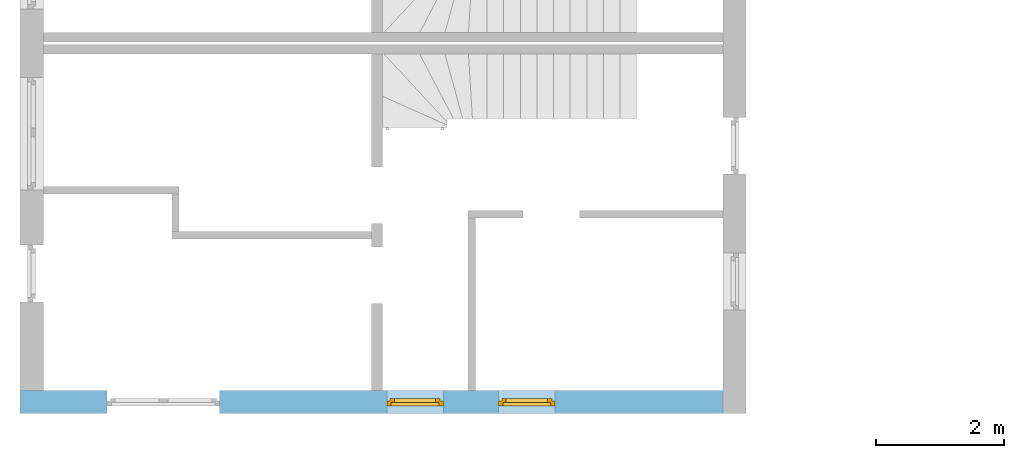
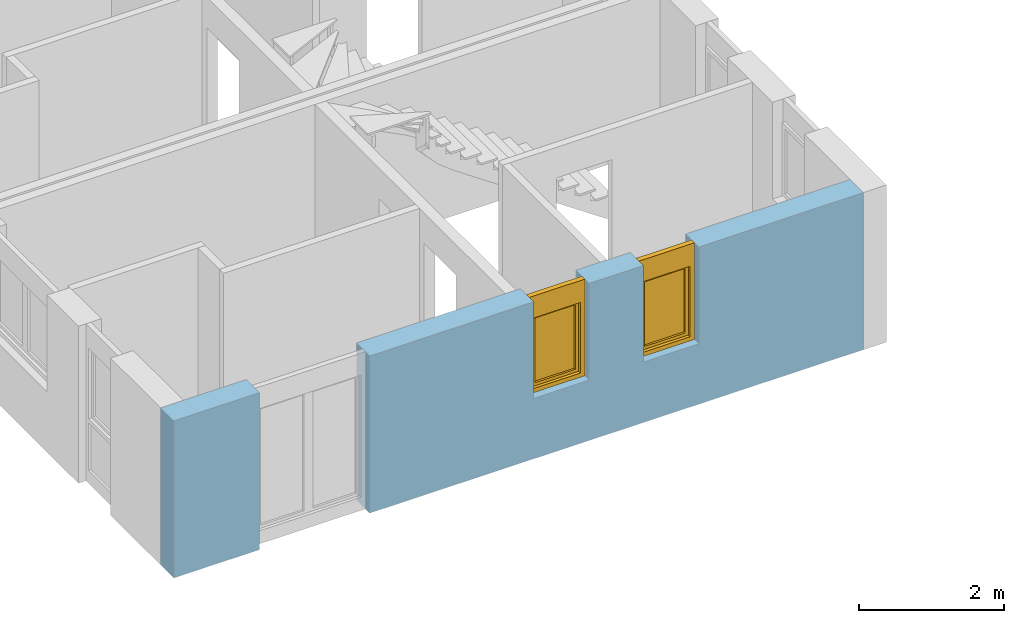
# One storey, part 5 of 42: 2 windows, 3 openings, plus 1 element that does not belong to this part.
"""IFC2X3 building model written with IfcOpenShell, lengths in millimetres."""

from ifc_helpers import new_model, entity, si_unit, converted_unit, frame, frame_2d, origin, origin_with_axes, place, context, subcontext, project, spatial, rectangle, extrude, faceted_brep, material, layer, layer_set, layer_usage, type_object, element, fill, save


model = new_model("IFC2X3")

# Units and contexts
model_context = context("Model", 3, precision=1e-05, world=origin())
body_context = subcontext(model_context, "Body", "Model", "MODEL_VIEW")
ifc_project = project(units=[si_unit("LENGTHUNIT", "METRE", prefix="MILLI"), converted_unit("PLANEANGLEUNIT", "DEGREE", entity("IfcPlaneAngleMeasure", 0.0174532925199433), si_unit("PLANEANGLEUNIT", "RADIAN"), dimensions=[0, 0, 0, 0, 0, 0, 0]), si_unit("AREAUNIT", "SQUARE_METRE"), si_unit("VOLUMEUNIT", "CUBIC_METRE")], contexts=[model_context])

# Building, storey
building_placement = place(None, origin())
building = spatial("IfcBuilding", under=ifc_project, at=building_placement, Name="Gebäude", CompositionType="ELEMENT")
storey_placement = place(building_placement, frame((0.0, 0.0, 2730.0), z_axis=(0.0, 0.0, 1.0), x_axis=(1.0, 0.0, 0.0)))
storey = spatial("IfcBuildingStorey", under=building, at=storey_placement, Name="OG.- Grundriss", CompositionType="ELEMENT", Elevation=2730.0)

# Wall, openings, windows
ifc_material_1 = material(Name="Poroton")
ifc_layer = layer(ifc_material_1, 365.0000000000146)
ifc_layer_set = layer_set([ifc_layer])
ifc_layer_usage = layer_usage(ifc_layer_set, "AXIS2", "POSITIVE", 0.0)
wall_placement = place(storey_placement, frame((130992.7928067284, 125274.8877324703, 0.0), z_axis=(0.0, 0.0, 1.0), x_axis=(1.0, -2.749253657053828e-11, 0.0)))
wall = element("IfcWallStandardCase", 1, at=wall_placement, inside=storey, material=ifc_layer_usage, Name="<Unnamed Element>", context=body_context, shape_type="SweptSolid", body=[
    extrude(rectangle(XDim=10999.99999999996, YDim=365.0000000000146, at=frame_2d((5499.999999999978, 182.5000000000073), x_axis=(1.0, 0.0))), origin_with_axes(), (0.0, 0.0, 1.0), 2650.0),
])
opening_1_placement = place(wall_placement, frame((1364.999999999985, -7.494236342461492e-12, 0.0), z_axis=(0.0, 1.0, 0.0), x_axis=(0.0, 0.0, 1.0)))
element("IfcOpeningElement", 2, at=opening_1_placement, cuts=wall, Name="Fensteröffnung", ObjectType="Opening", context=body_context, shape_type="SweptSolid", body=[
    extrude(rectangle(XDim=2650.0, YDim=1760.0, at=frame_2d((1325.0, 880.0), x_axis=(1.0, 0.0))), origin_with_axes(), (0.0, 0.0, 1.0), 365.0000000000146),
])
opening_2_placement = place(wall_placement, frame((7489.999999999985, -3.477907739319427e-11, 1020.0), z_axis=(0.0, 1.0, 0.0), x_axis=(0.0, 0.0, 1.0)))
opening_2 = element("IfcOpeningElement", 3, at=opening_2_placement, cuts=wall, Name="Fensteröffnung", ObjectType="Opening", context=body_context, shape_type="SweptSolid", body=[
    extrude(rectangle(XDim=1630.0, YDim=885.0, at=frame_2d((815.0, 442.5), x_axis=(1.0, 0.0))), origin_with_axes(), (0.0, 0.0, 1.0), 365.0000000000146),
])
opening_3_placement = place(wall_placement, frame((5739.999999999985, -1.658918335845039e-11, 1020.0), z_axis=(0.0, 1.0, 0.0), x_axis=(0.0, 0.0, 1.0)))
opening_3 = element("IfcOpeningElement", 4, at=opening_3_placement, cuts=wall, Name="Fensteröffnung", ObjectType="Opening", context=body_context, shape_type="SweptSolid", body=[
    extrude(rectangle(XDim=1630.0, YDim=885.0, at=frame_2d((815.0, 442.5), x_axis=(1.0, 0.0))), origin_with_axes(), (0.0, 0.0, 1.0), 365.0000000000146),
])
ifc_material_2 = material()
window_style_1 = type_object("IfcWindowStyle", Name="Fenster", ConstructionType="NOTDEFINED", OperationType="USERDEFINED", ParameterTakesPrecedence=False, Sizeable=False)
window_1_placement = place(opening_2_placement, frame((0.0, 0.0, 0.0), z_axis=(1.0, 0.0, 0.0), x_axis=(0.0, 1.0, 0.0)))
window_1 = element("IfcWindow", 5, at=window_1_placement, inside=storey, type_object=window_style_1, material=ifc_material_2, Name="Fenster", OverallHeight=1630.0, OverallWidth=885.0, context=body_context, shape_type="Brep", body=[
    faceted_brep([(-1.224022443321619e-08, 200.0000000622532, 1630.0), (-1.224022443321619e-08, 200.0000000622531, -2.449293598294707e-15), (69.99999998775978, 200.0000000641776, -2.449293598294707e-15), (69.99999998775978, 200.0000000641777, 1630.0), (-1.004082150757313e-08, 120.0000000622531, 2.449293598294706e-15), (-1.004082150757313e-08, 120.0000000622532, 1630.0), (69.99999998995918, 120.0000000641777, 1630.0), (69.99999998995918, 120.0000000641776, 2.449293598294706e-15), (-1.224022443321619e-08, 200.0000000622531, -2.449293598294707e-15), (-1.224022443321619e-08, 200.0000000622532, 1630.0), (-1.004082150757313e-08, 120.0000000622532, 1630.0), (-1.004082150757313e-08, 120.0000000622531, 2.449293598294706e-15), (69.99999998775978, 200.0000000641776, -2.449293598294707e-15), (-1.224022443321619e-08, 200.0000000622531, -2.449293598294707e-15), (-1.004082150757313e-08, 120.0000000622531, 2.449293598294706e-15), (69.99999998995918, 120.0000000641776, 2.449293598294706e-15), (69.99999998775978, 200.0000000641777, 1630.0), (69.99999998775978, 200.0000000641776, -2.449293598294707e-15), (69.99999998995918, 120.0000000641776, 2.449293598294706e-15), (69.99999998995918, 120.0000000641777, 1630.0), (-1.224022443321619e-08, 200.0000000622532, 1630.0), (69.99999998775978, 200.0000000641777, 1630.0), (69.99999998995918, 120.0000000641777, 1630.0), (-1.004082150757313e-08, 120.0000000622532, 1630.0)], [[[0, 1, 2, 3]], [[4, 5, 6, 7]], [[8, 9, 10, 11]], [[12, 13, 14, 15]], [[16, 17, 18, 19]], [[20, 21, 22, 23]]], orient=[[False], [False], [False], [False], [False], [False]]),
    faceted_brep([(814.9999999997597, 200.0000000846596, 1630.0), (814.9999999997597, 200.0000000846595, -2.449293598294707e-15), (884.9999999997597, 200.000000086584, -2.449293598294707e-15), (884.9999999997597, 200.0000000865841, 1630.0), (815.000000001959, 120.0000000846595, 2.449293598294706e-15), (815.000000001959, 120.0000000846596, 1630.0), (885.000000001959, 120.0000000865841, 1630.0), (885.000000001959, 120.000000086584, 2.449293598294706e-15), (814.9999999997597, 200.0000000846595, -2.449293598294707e-15), (814.9999999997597, 200.0000000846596, 1630.0), (815.000000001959, 120.0000000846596, 1630.0), (815.000000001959, 120.0000000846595, 2.449293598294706e-15), (884.9999999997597, 200.000000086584, -2.449293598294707e-15), (814.9999999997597, 200.0000000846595, -2.449293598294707e-15), (815.000000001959, 120.0000000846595, 2.449293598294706e-15), (885.000000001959, 120.000000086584, 2.449293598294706e-15), (884.9999999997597, 200.0000000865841, 1630.0), (884.9999999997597, 200.000000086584, -2.449293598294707e-15), (885.000000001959, 120.000000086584, 2.449293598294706e-15), (885.000000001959, 120.0000000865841, 1630.0), (814.9999999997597, 200.0000000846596, 1630.0), (884.9999999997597, 200.0000000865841, 1630.0), (885.000000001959, 120.0000000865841, 1630.0), (815.000000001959, 120.0000000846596, 1630.0)], [[[0, 1, 2, 3]], [[4, 5, 6, 7]], [[8, 9, 10, 11]], [[12, 13, 14, 15]], [[16, 17, 18, 19]], [[20, 21, 22, 23]]], orient=[[False], [False], [False], [False], [False], [False]]),
    faceted_brep([(69.99999998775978, 200.0000000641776, 69.99999999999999), (69.99999998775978, 200.0000000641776, -2.449293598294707e-15), (814.9999999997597, 200.0000000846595, -2.449293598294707e-15), (814.9999999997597, 200.0000000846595, 69.99999999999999), (69.99999998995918, 120.0000000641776, 2.449293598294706e-15), (69.99999998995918, 120.0000000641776, 69.99999999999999), (815.000000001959, 120.0000000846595, 69.99999999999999), (815.000000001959, 120.0000000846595, 2.449293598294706e-15), (69.99999998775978, 200.0000000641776, -2.449293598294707e-15), (69.99999998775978, 200.0000000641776, 69.99999999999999), (69.99999998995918, 120.0000000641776, 69.99999999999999), (69.99999998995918, 120.0000000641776, 2.449293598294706e-15), (814.9999999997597, 200.0000000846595, -2.449293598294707e-15), (69.99999998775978, 200.0000000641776, -2.449293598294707e-15), (69.99999998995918, 120.0000000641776, 2.449293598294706e-15), (815.000000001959, 120.0000000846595, 2.449293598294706e-15), (814.9999999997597, 200.0000000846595, 69.99999999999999), (814.9999999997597, 200.0000000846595, -2.449293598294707e-15), (815.000000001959, 120.0000000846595, 2.449293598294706e-15), (815.000000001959, 120.0000000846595, 69.99999999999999), (69.99999998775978, 200.0000000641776, 69.99999999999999), (814.9999999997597, 200.0000000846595, 69.99999999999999), (815.000000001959, 120.0000000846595, 69.99999999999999), (69.99999998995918, 120.0000000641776, 69.99999999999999)], [[[0, 1, 2, 3]], [[4, 5, 6, 7]], [[8, 9, 10, 11]], [[12, 13, 14, 15]], [[16, 17, 18, 19]], [[20, 21, 22, 23]]], orient=[[False], [False], [False], [False], [False], [False]]),
    faceted_brep([(69.99999998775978, 200.0000000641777, 1630.0), (69.99999998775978, 200.0000000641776, 1260.0), (814.9999999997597, 200.0000000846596, 1260.0), (814.9999999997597, 200.0000000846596, 1630.0), (69.99999998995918, 120.0000000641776, 1260.0), (69.99999998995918, 120.0000000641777, 1630.0), (815.000000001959, 120.0000000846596, 1630.0), (815.000000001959, 120.0000000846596, 1260.0), (69.99999998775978, 200.0000000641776, 1260.0), (69.99999998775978, 200.0000000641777, 1630.0), (69.99999998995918, 120.0000000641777, 1630.0), (69.99999998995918, 120.0000000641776, 1260.0), (814.9999999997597, 200.0000000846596, 1260.0), (69.99999998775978, 200.0000000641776, 1260.0), (69.99999998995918, 120.0000000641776, 1260.0), (815.000000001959, 120.0000000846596, 1260.0), (814.9999999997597, 200.0000000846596, 1630.0), (814.9999999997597, 200.0000000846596, 1260.0), (815.000000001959, 120.0000000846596, 1260.0), (815.000000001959, 120.0000000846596, 1630.0), (69.99999998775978, 200.0000000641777, 1630.0), (814.9999999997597, 200.0000000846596, 1630.0), (815.000000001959, 120.0000000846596, 1630.0), (69.99999998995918, 120.0000000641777, 1630.0)], [[[0, 1, 2, 3]], [[4, 5, 6, 7]], [[8, 9, 10, 11]], [[12, 13, 14, 15]], [[16, 17, 18, 19]], [[20, 21, 22, 23]]], orient=[[False], [False], [False], [False], [False], [False]]),
    faceted_brep([(49.99999998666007, 240.0000000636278, 1280.0), (49.99999998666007, 240.0000000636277, 49.99999999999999), (119.9999999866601, 240.0000000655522, 49.99999999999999), (119.9999999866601, 240.0000000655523, 1280.0), (49.99999998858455, 170.0000000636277, 50.0), (49.99999998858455, 170.0000000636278, 1280.0), (119.9999999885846, 170.0000000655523, 1280.0), (119.9999999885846, 170.0000000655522, 50.0), (49.99999998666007, 240.0000000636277, 49.99999999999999), (49.99999998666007, 240.0000000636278, 1280.0), (49.99999998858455, 170.0000000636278, 1280.0), (49.99999998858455, 170.0000000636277, 50.0), (119.9999999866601, 240.0000000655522, 49.99999999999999), (49.99999998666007, 240.0000000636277, 49.99999999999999), (49.99999998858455, 170.0000000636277, 50.0), (119.9999999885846, 170.0000000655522, 50.0), (119.9999999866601, 240.0000000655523, 1280.0), (119.9999999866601, 240.0000000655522, 49.99999999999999), (119.9999999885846, 170.0000000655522, 50.0), (119.9999999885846, 170.0000000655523, 1280.0), (49.99999998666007, 240.0000000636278, 1280.0), (119.9999999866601, 240.0000000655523, 1280.0), (119.9999999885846, 170.0000000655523, 1280.0), (49.99999998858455, 170.0000000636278, 1280.0)], [[[0, 1, 2, 3]], [[4, 5, 6, 7]], [[8, 9, 10, 11]], [[12, 13, 14, 15]], [[16, 17, 18, 19]], [[20, 21, 22, 23]]], orient=[[False], [False], [False], [False], [False], [False]]),
    faceted_brep([(764.9999999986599, 240.000000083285, 1280.0), (764.9999999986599, 240.0000000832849, 49.99999999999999), (834.9999999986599, 240.0000000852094, 49.99999999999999), (834.9999999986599, 240.0000000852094, 1280.0), (765.0000000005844, 170.0000000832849, 50.0), (765.0000000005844, 170.000000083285, 1280.0), (835.0000000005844, 170.0000000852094, 1280.0), (835.0000000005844, 170.0000000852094, 50.0), (764.9999999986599, 240.0000000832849, 49.99999999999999), (764.9999999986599, 240.000000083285, 1280.0), (765.0000000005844, 170.000000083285, 1280.0), (765.0000000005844, 170.0000000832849, 50.0), (834.9999999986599, 240.0000000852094, 49.99999999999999), (764.9999999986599, 240.0000000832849, 49.99999999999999), (765.0000000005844, 170.0000000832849, 50.0), (835.0000000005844, 170.0000000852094, 50.0), (834.9999999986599, 240.0000000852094, 1280.0), (834.9999999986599, 240.0000000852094, 49.99999999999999), (835.0000000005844, 170.0000000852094, 50.0), (835.0000000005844, 170.0000000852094, 1280.0), (764.9999999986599, 240.000000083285, 1280.0), (834.9999999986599, 240.0000000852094, 1280.0), (835.0000000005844, 170.0000000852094, 1280.0), (765.0000000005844, 170.000000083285, 1280.0)], [[[0, 1, 2, 3]], [[4, 5, 6, 7]], [[8, 9, 10, 11]], [[12, 13, 14, 15]], [[16, 17, 18, 19]], [[20, 21, 22, 23]]], orient=[[False], [False], [False], [False], [False], [False]]),
    faceted_brep([(119.9999999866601, 240.0000000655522, 120.0), (119.9999999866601, 240.0000000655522, 49.99999999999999), (764.9999999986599, 240.0000000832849, 49.99999999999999), (764.9999999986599, 240.0000000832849, 120.0), (119.9999999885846, 170.0000000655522, 50.0), (119.9999999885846, 170.0000000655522, 120.0), (765.0000000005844, 170.0000000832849, 120.0), (765.0000000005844, 170.0000000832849, 50.0), (119.9999999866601, 240.0000000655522, 49.99999999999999), (119.9999999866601, 240.0000000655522, 120.0), (119.9999999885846, 170.0000000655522, 120.0), (119.9999999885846, 170.0000000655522, 50.0), (764.9999999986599, 240.0000000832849, 49.99999999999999), (119.9999999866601, 240.0000000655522, 49.99999999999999), (119.9999999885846, 170.0000000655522, 50.0), (765.0000000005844, 170.0000000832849, 50.0), (764.9999999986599, 240.0000000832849, 120.0), (764.9999999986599, 240.0000000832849, 49.99999999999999), (765.0000000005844, 170.0000000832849, 50.0), (765.0000000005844, 170.0000000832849, 120.0), (119.9999999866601, 240.0000000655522, 120.0), (764.9999999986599, 240.0000000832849, 120.0), (765.0000000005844, 170.0000000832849, 120.0), (119.9999999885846, 170.0000000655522, 120.0)], [[[0, 1, 2, 3]], [[4, 5, 6, 7]], [[8, 9, 10, 11]], [[12, 13, 14, 15]], [[16, 17, 18, 19]], [[20, 21, 22, 23]]], orient=[[False], [False], [False], [False], [False], [False]]),
    faceted_brep([(119.9999999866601, 240.0000000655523, 1280.0), (119.9999999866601, 240.0000000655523, 1210.0), (764.9999999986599, 240.000000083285, 1210.0), (764.9999999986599, 240.000000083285, 1280.0), (119.9999999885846, 170.0000000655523, 1210.0), (119.9999999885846, 170.0000000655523, 1280.0), (765.0000000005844, 170.000000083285, 1280.0), (765.0000000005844, 170.000000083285, 1210.0), (119.9999999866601, 240.0000000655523, 1210.0), (119.9999999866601, 240.0000000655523, 1280.0), (119.9999999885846, 170.0000000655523, 1280.0), (119.9999999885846, 170.0000000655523, 1210.0), (764.9999999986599, 240.000000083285, 1210.0), (119.9999999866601, 240.0000000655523, 1210.0), (119.9999999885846, 170.0000000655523, 1210.0), (765.0000000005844, 170.000000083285, 1210.0), (764.9999999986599, 240.000000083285, 1280.0), (764.9999999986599, 240.000000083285, 1210.0), (765.0000000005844, 170.000000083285, 1210.0), (765.0000000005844, 170.000000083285, 1280.0), (119.9999999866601, 240.0000000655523, 1280.0), (764.9999999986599, 240.000000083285, 1280.0), (765.0000000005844, 170.000000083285, 1280.0), (119.9999999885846, 170.0000000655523, 1280.0)], [[[0, 1, 2, 3]], [[4, 5, 6, 7]], [[8, 9, 10, 11]], [[12, 13, 14, 15]], [[16, 17, 18, 19]], [[20, 21, 22, 23]]], orient=[[False], [False], [False], [False], [False], [False]]),
    faceted_brep([(119.9999999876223, 205.0000000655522, 120.0), (764.9999999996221, 205.0000000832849, 120.0), (764.9999999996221, 205.000000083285, 1210.0), (119.9999999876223, 205.0000000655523, 1210.0), (119.9999999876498, 204.0000000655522, 120.0), (119.9999999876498, 204.0000000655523, 1210.0), (764.9999999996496, 204.000000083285, 1210.0), (764.9999999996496, 204.0000000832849, 120.0), (119.9999999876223, 205.0000000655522, 120.0), (119.9999999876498, 204.0000000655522, 120.0), (764.9999999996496, 204.0000000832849, 120.0), (764.9999999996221, 205.0000000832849, 120.0), (764.9999999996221, 205.0000000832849, 120.0), (764.9999999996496, 204.0000000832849, 120.0), (764.9999999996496, 204.000000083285, 1210.0), (764.9999999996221, 205.000000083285, 1210.0), (764.9999999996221, 205.000000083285, 1210.0), (764.9999999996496, 204.000000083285, 1210.0), (119.9999999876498, 204.0000000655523, 1210.0), (119.9999999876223, 205.0000000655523, 1210.0), (119.9999999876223, 205.0000000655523, 1210.0), (119.9999999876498, 204.0000000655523, 1210.0), (119.9999999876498, 204.0000000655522, 120.0), (119.9999999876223, 205.0000000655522, 120.0)], [[[0, 1, 2, 3]], [[4, 5, 6, 7]], [[8, 9, 10, 11]], [[12, 13, 14, 15]], [[16, 17, 18, 19]], [[20, 21, 22, 23]]], orient=[[False], [False], [False], [False], [False], [False]]),
])
fill(opening_2, window_1)
ifc_material_3 = material()
window_style_2 = type_object("IfcWindowStyle", Name="Fenster", ConstructionType="NOTDEFINED", OperationType="USERDEFINED", ParameterTakesPrecedence=False, Sizeable=False)
window_2_placement = place(opening_3_placement, frame((0.0, 0.0, 0.0), z_axis=(1.0, 0.0, 0.0), x_axis=(0.0, 1.0, 0.0)))
window_2 = element("IfcWindow", 6, at=window_2_placement, inside=storey, type_object=window_style_2, material=ifc_material_3, Name="Fenster", OverallHeight=1630.0, OverallWidth=885.0, context=body_context, shape_type="Brep", body=[
    faceted_brep([(-1.224022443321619e-08, 200.0000000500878, 1630.0), (-1.224022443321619e-08, 200.0000000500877, -2.449293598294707e-15), (69.99999998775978, 200.0000000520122, -2.449293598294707e-15), (69.99999998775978, 200.0000000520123, 1630.0), (-1.004082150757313e-08, 120.0000000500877, 2.449293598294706e-15), (-1.004082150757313e-08, 120.0000000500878, 1630.0), (69.99999998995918, 120.0000000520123, 1630.0), (69.99999998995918, 120.0000000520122, 2.449293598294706e-15), (-1.224022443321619e-08, 200.0000000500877, -2.449293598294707e-15), (-1.224022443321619e-08, 200.0000000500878, 1630.0), (-1.004082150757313e-08, 120.0000000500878, 1630.0), (-1.004082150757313e-08, 120.0000000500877, 2.449293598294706e-15), (69.99999998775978, 200.0000000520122, -2.449293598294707e-15), (-1.224022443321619e-08, 200.0000000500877, -2.449293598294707e-15), (-1.004082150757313e-08, 120.0000000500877, 2.449293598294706e-15), (69.99999998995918, 120.0000000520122, 2.449293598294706e-15), (69.99999998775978, 200.0000000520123, 1630.0), (69.99999998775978, 200.0000000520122, -2.449293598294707e-15), (69.99999998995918, 120.0000000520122, 2.449293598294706e-15), (69.99999998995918, 120.0000000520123, 1630.0), (-1.224022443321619e-08, 200.0000000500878, 1630.0), (69.99999998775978, 200.0000000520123, 1630.0), (69.99999998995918, 120.0000000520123, 1630.0), (-1.004082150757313e-08, 120.0000000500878, 1630.0)], [[[0, 1, 2, 3]], [[4, 5, 6, 7]], [[8, 9, 10, 11]], [[12, 13, 14, 15]], [[16, 17, 18, 19]], [[20, 21, 22, 23]]], orient=[[False], [False], [False], [False], [False], [False]]),
    faceted_brep([(814.9999999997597, 200.0000000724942, 1630.0), (814.9999999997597, 200.0000000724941, -2.449293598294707e-15), (884.9999999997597, 200.0000000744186, -2.449293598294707e-15), (884.9999999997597, 200.0000000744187, 1630.0), (815.000000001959, 120.0000000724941, 2.449293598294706e-15), (815.000000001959, 120.0000000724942, 1630.0), (885.000000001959, 120.0000000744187, 1630.0), (885.000000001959, 120.0000000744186, 2.449293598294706e-15), (814.9999999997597, 200.0000000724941, -2.449293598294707e-15), (814.9999999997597, 200.0000000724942, 1630.0), (815.000000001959, 120.0000000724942, 1630.0), (815.000000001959, 120.0000000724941, 2.449293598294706e-15), (884.9999999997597, 200.0000000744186, -2.449293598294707e-15), (814.9999999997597, 200.0000000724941, -2.449293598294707e-15), (815.000000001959, 120.0000000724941, 2.449293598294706e-15), (885.000000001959, 120.0000000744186, 2.449293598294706e-15), (884.9999999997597, 200.0000000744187, 1630.0), (884.9999999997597, 200.0000000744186, -2.449293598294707e-15), (885.000000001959, 120.0000000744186, 2.449293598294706e-15), (885.000000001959, 120.0000000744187, 1630.0), (814.9999999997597, 200.0000000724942, 1630.0), (884.9999999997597, 200.0000000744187, 1630.0), (885.000000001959, 120.0000000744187, 1630.0), (815.000000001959, 120.0000000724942, 1630.0)], [[[0, 1, 2, 3]], [[4, 5, 6, 7]], [[8, 9, 10, 11]], [[12, 13, 14, 15]], [[16, 17, 18, 19]], [[20, 21, 22, 23]]], orient=[[False], [False], [False], [False], [False], [False]]),
    faceted_brep([(69.99999998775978, 200.0000000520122, 69.99999999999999), (69.99999998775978, 200.0000000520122, -2.449293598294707e-15), (814.9999999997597, 200.0000000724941, -2.449293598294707e-15), (814.9999999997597, 200.0000000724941, 69.99999999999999), (69.99999998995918, 120.0000000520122, 2.449293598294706e-15), (69.99999998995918, 120.0000000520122, 69.99999999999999), (815.000000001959, 120.0000000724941, 69.99999999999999), (815.000000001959, 120.0000000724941, 2.449293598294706e-15), (69.99999998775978, 200.0000000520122, -2.449293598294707e-15), (69.99999998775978, 200.0000000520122, 69.99999999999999), (69.99999998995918, 120.0000000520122, 69.99999999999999), (69.99999998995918, 120.0000000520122, 2.449293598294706e-15), (814.9999999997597, 200.0000000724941, -2.449293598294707e-15), (69.99999998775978, 200.0000000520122, -2.449293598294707e-15), (69.99999998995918, 120.0000000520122, 2.449293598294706e-15), (815.000000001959, 120.0000000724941, 2.449293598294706e-15), (814.9999999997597, 200.0000000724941, 69.99999999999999), (814.9999999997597, 200.0000000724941, -2.449293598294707e-15), (815.000000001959, 120.0000000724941, 2.449293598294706e-15), (815.000000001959, 120.0000000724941, 69.99999999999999), (69.99999998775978, 200.0000000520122, 69.99999999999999), (814.9999999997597, 200.0000000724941, 69.99999999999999), (815.000000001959, 120.0000000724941, 69.99999999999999), (69.99999998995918, 120.0000000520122, 69.99999999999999)], [[[0, 1, 2, 3]], [[4, 5, 6, 7]], [[8, 9, 10, 11]], [[12, 13, 14, 15]], [[16, 17, 18, 19]], [[20, 21, 22, 23]]], orient=[[False], [False], [False], [False], [False], [False]]),
    faceted_brep([(69.99999998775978, 200.0000000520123, 1630.0), (69.99999998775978, 200.0000000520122, 1260.0), (814.9999999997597, 200.0000000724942, 1260.0), (814.9999999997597, 200.0000000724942, 1630.0), (69.99999998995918, 120.0000000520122, 1260.0), (69.99999998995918, 120.0000000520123, 1630.0), (815.000000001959, 120.0000000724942, 1630.0), (815.000000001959, 120.0000000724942, 1260.0), (69.99999998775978, 200.0000000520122, 1260.0), (69.99999998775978, 200.0000000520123, 1630.0), (69.99999998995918, 120.0000000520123, 1630.0), (69.99999998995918, 120.0000000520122, 1260.0), (814.9999999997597, 200.0000000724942, 1260.0), (69.99999998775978, 200.0000000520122, 1260.0), (69.99999998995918, 120.0000000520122, 1260.0), (815.000000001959, 120.0000000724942, 1260.0), (814.9999999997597, 200.0000000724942, 1630.0), (814.9999999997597, 200.0000000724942, 1260.0), (815.000000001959, 120.0000000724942, 1260.0), (815.000000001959, 120.0000000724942, 1630.0), (69.99999998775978, 200.0000000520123, 1630.0), (814.9999999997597, 200.0000000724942, 1630.0), (815.000000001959, 120.0000000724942, 1630.0), (69.99999998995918, 120.0000000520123, 1630.0)], [[[0, 1, 2, 3]], [[4, 5, 6, 7]], [[8, 9, 10, 11]], [[12, 13, 14, 15]], [[16, 17, 18, 19]], [[20, 21, 22, 23]]], orient=[[False], [False], [False], [False], [False], [False]]),
    faceted_brep([(49.99999998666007, 240.0000000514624, 1280.0), (49.99999998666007, 240.0000000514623, 49.99999999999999), (119.9999999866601, 240.0000000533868, 49.99999999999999), (119.9999999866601, 240.0000000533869, 1280.0), (49.99999998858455, 170.0000000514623, 50.0), (49.99999998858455, 170.0000000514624, 1280.0), (119.9999999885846, 170.0000000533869, 1280.0), (119.9999999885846, 170.0000000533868, 50.0), (49.99999998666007, 240.0000000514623, 49.99999999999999), (49.99999998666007, 240.0000000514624, 1280.0), (49.99999998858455, 170.0000000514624, 1280.0), (49.99999998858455, 170.0000000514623, 50.0), (119.9999999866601, 240.0000000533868, 49.99999999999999), (49.99999998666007, 240.0000000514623, 49.99999999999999), (49.99999998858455, 170.0000000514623, 50.0), (119.9999999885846, 170.0000000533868, 50.0), (119.9999999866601, 240.0000000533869, 1280.0), (119.9999999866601, 240.0000000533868, 49.99999999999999), (119.9999999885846, 170.0000000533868, 50.0), (119.9999999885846, 170.0000000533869, 1280.0), (49.99999998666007, 240.0000000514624, 1280.0), (119.9999999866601, 240.0000000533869, 1280.0), (119.9999999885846, 170.0000000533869, 1280.0), (49.99999998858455, 170.0000000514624, 1280.0)], [[[0, 1, 2, 3]], [[4, 5, 6, 7]], [[8, 9, 10, 11]], [[12, 13, 14, 15]], [[16, 17, 18, 19]], [[20, 21, 22, 23]]], orient=[[False], [False], [False], [False], [False], [False]]),
    faceted_brep([(764.9999999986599, 240.0000000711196, 1280.0), (764.9999999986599, 240.0000000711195, 49.99999999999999), (834.9999999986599, 240.000000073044, 49.99999999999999), (834.9999999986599, 240.000000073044, 1280.0), (765.0000000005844, 170.0000000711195, 50.0), (765.0000000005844, 170.0000000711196, 1280.0), (835.0000000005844, 170.000000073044, 1280.0), (835.0000000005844, 170.000000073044, 50.0), (764.9999999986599, 240.0000000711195, 49.99999999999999), (764.9999999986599, 240.0000000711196, 1280.0), (765.0000000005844, 170.0000000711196, 1280.0), (765.0000000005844, 170.0000000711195, 50.0), (834.9999999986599, 240.000000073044, 49.99999999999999), (764.9999999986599, 240.0000000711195, 49.99999999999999), (765.0000000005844, 170.0000000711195, 50.0), (835.0000000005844, 170.000000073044, 50.0), (834.9999999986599, 240.000000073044, 1280.0), (834.9999999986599, 240.000000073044, 49.99999999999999), (835.0000000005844, 170.000000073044, 50.0), (835.0000000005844, 170.000000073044, 1280.0), (764.9999999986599, 240.0000000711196, 1280.0), (834.9999999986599, 240.000000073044, 1280.0), (835.0000000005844, 170.000000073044, 1280.0), (765.0000000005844, 170.0000000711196, 1280.0)], [[[0, 1, 2, 3]], [[4, 5, 6, 7]], [[8, 9, 10, 11]], [[12, 13, 14, 15]], [[16, 17, 18, 19]], [[20, 21, 22, 23]]], orient=[[False], [False], [False], [False], [False], [False]]),
    faceted_brep([(119.9999999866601, 240.0000000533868, 120.0), (119.9999999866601, 240.0000000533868, 49.99999999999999), (764.9999999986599, 240.0000000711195, 49.99999999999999), (764.9999999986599, 240.0000000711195, 120.0), (119.9999999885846, 170.0000000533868, 50.0), (119.9999999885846, 170.0000000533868, 120.0), (765.0000000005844, 170.0000000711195, 120.0), (765.0000000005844, 170.0000000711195, 50.0), (119.9999999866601, 240.0000000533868, 49.99999999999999), (119.9999999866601, 240.0000000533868, 120.0), (119.9999999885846, 170.0000000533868, 120.0), (119.9999999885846, 170.0000000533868, 50.0), (764.9999999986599, 240.0000000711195, 49.99999999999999), (119.9999999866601, 240.0000000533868, 49.99999999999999), (119.9999999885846, 170.0000000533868, 50.0), (765.0000000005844, 170.0000000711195, 50.0), (764.9999999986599, 240.0000000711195, 120.0), (764.9999999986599, 240.0000000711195, 49.99999999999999), (765.0000000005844, 170.0000000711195, 50.0), (765.0000000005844, 170.0000000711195, 120.0), (119.9999999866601, 240.0000000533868, 120.0), (764.9999999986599, 240.0000000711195, 120.0), (765.0000000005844, 170.0000000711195, 120.0), (119.9999999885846, 170.0000000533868, 120.0)], [[[0, 1, 2, 3]], [[4, 5, 6, 7]], [[8, 9, 10, 11]], [[12, 13, 14, 15]], [[16, 17, 18, 19]], [[20, 21, 22, 23]]], orient=[[False], [False], [False], [False], [False], [False]]),
    faceted_brep([(119.9999999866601, 240.0000000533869, 1280.0), (119.9999999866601, 240.0000000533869, 1210.0), (764.9999999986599, 240.0000000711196, 1210.0), (764.9999999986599, 240.0000000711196, 1280.0), (119.9999999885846, 170.0000000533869, 1210.0), (119.9999999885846, 170.0000000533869, 1280.0), (765.0000000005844, 170.0000000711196, 1280.0), (765.0000000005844, 170.0000000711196, 1210.0), (119.9999999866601, 240.0000000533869, 1210.0), (119.9999999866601, 240.0000000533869, 1280.0), (119.9999999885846, 170.0000000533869, 1280.0), (119.9999999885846, 170.0000000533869, 1210.0), (764.9999999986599, 240.0000000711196, 1210.0), (119.9999999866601, 240.0000000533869, 1210.0), (119.9999999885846, 170.0000000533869, 1210.0), (765.0000000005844, 170.0000000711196, 1210.0), (764.9999999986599, 240.0000000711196, 1280.0), (764.9999999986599, 240.0000000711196, 1210.0), (765.0000000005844, 170.0000000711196, 1210.0), (765.0000000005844, 170.0000000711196, 1280.0), (119.9999999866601, 240.0000000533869, 1280.0), (764.9999999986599, 240.0000000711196, 1280.0), (765.0000000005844, 170.0000000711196, 1280.0), (119.9999999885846, 170.0000000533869, 1280.0)], [[[0, 1, 2, 3]], [[4, 5, 6, 7]], [[8, 9, 10, 11]], [[12, 13, 14, 15]], [[16, 17, 18, 19]], [[20, 21, 22, 23]]], orient=[[False], [False], [False], [False], [False], [False]]),
    faceted_brep([(119.9999999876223, 205.0000000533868, 120.0), (764.9999999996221, 205.0000000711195, 120.0), (764.9999999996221, 205.0000000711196, 1210.0), (119.9999999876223, 205.0000000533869, 1210.0), (119.9999999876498, 204.0000000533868, 120.0), (119.9999999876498, 204.0000000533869, 1210.0), (764.9999999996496, 204.0000000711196, 1210.0), (764.9999999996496, 204.0000000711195, 120.0), (119.9999999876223, 205.0000000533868, 120.0), (119.9999999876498, 204.0000000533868, 120.0), (764.9999999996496, 204.0000000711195, 120.0), (764.9999999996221, 205.0000000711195, 120.0), (764.9999999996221, 205.0000000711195, 120.0), (764.9999999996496, 204.0000000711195, 120.0), (764.9999999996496, 204.0000000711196, 1210.0), (764.9999999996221, 205.0000000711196, 1210.0), (764.9999999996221, 205.0000000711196, 1210.0), (764.9999999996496, 204.0000000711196, 1210.0), (119.9999999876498, 204.0000000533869, 1210.0), (119.9999999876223, 205.0000000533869, 1210.0), (119.9999999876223, 205.0000000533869, 1210.0), (119.9999999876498, 204.0000000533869, 1210.0), (119.9999999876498, 204.0000000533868, 120.0), (119.9999999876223, 205.0000000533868, 120.0)], [[[0, 1, 2, 3]], [[4, 5, 6, 7]], [[8, 9, 10, 11]], [[12, 13, 14, 15]], [[16, 17, 18, 19]], [[20, 21, 22, 23]]], orient=[[False], [False], [False], [False], [False], [False]]),
])
fill(opening_3, window_2)

save(model, "model.ifc")
